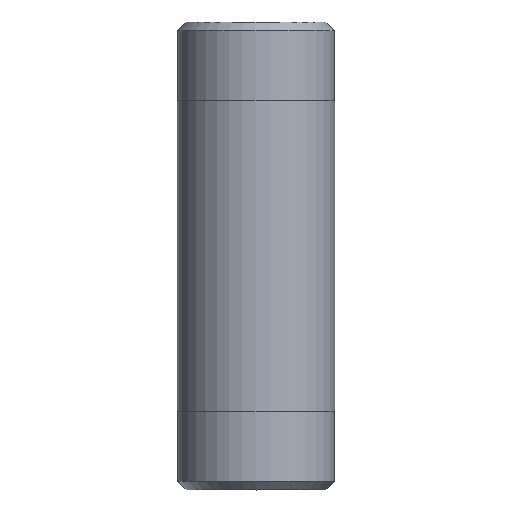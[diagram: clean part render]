
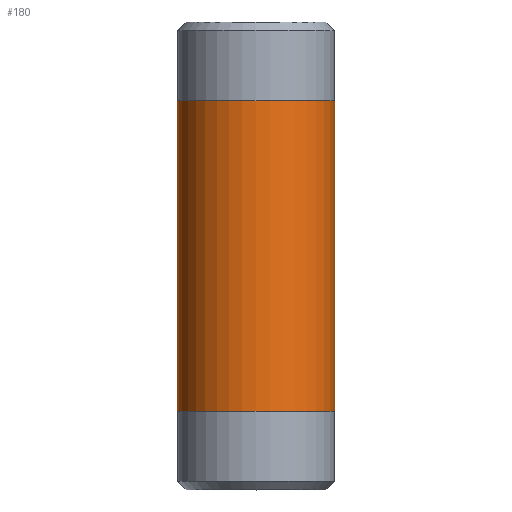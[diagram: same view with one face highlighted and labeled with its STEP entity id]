
A CAD part, top view. The second image highlights one B-rep face of the part: STEP entity #180.
In plain terms, the highlighted cylindrical face has radius 10.668 mm (diameter 21.336 mm), a full revolution.
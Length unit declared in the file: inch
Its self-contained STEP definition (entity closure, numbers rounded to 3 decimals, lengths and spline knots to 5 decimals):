
#25=CYLINDRICAL_SURFACE('',#220,0.42);
#34=FACE_OUTER_BOUND('',#47,.T.);
#47=EDGE_LOOP('',(#155,#156,#157,#158,#159,#160));
#55=LINE('',#338,#61);
#61=VECTOR('',#283,0.42);
#77=CIRCLE('',#218,0.42);
#78=CIRCLE('',#219,0.42);
#79=CIRCLE('',#221,0.42);
#80=CIRCLE('',#222,0.42);
#95=VERTEX_POINT('',#329);
#96=VERTEX_POINT('',#330);
#97=VERTEX_POINT('',#334);
#98=VERTEX_POINT('',#335);
#117=EDGE_CURVE('',#95,#96,#77,.T.);
#118=EDGE_CURVE('',#96,#95,#78,.T.);
#119=EDGE_CURVE('',#97,#98,#79,.T.);
#120=EDGE_CURVE('',#98,#97,#80,.T.);
#121=EDGE_CURVE('',#98,#96,#55,.T.);
#155=ORIENTED_EDGE('',*,*,#119,.F.);
#156=ORIENTED_EDGE('',*,*,#120,.F.);
#157=ORIENTED_EDGE('',*,*,#121,.T.);
#158=ORIENTED_EDGE('',*,*,#118,.T.);
#159=ORIENTED_EDGE('',*,*,#117,.T.);
#160=ORIENTED_EDGE('',*,*,#121,.F.);
#180=ADVANCED_FACE('',(#34),#25,.T.);
#218=AXIS2_PLACEMENT_3D('',#331,#273,#274);
#219=AXIS2_PLACEMENT_3D('',#332,#275,#276);
#220=AXIS2_PLACEMENT_3D('',#333,#277,#278);
#221=AXIS2_PLACEMENT_3D('',#336,#279,#280);
#222=AXIS2_PLACEMENT_3D('',#337,#281,#282);
#273=DIRECTION('center_axis',(0.,-1.,0.));
#274=DIRECTION('ref_axis',(1.,0.,0.));
#275=DIRECTION('center_axis',(0.,-1.,0.));
#276=DIRECTION('ref_axis',(1.,0.,0.));
#277=DIRECTION('center_axis',(0.,-1.,0.));
#278=DIRECTION('ref_axis',(0.,0.,-1.));
#279=DIRECTION('center_axis',(0.,-1.,0.));
#280=DIRECTION('ref_axis',(1.,0.,0.));
#281=DIRECTION('center_axis',(0.,-1.,0.));
#282=DIRECTION('ref_axis',(1.,0.,0.));
#283=DIRECTION('',(0.,1.,0.));
#329=CARTESIAN_POINT('',(0.,2.08,-0.42));
#330=CARTESIAN_POINT('',(0.,2.08,0.42));
#331=CARTESIAN_POINT('Origin',(0.,2.08,0.));
#332=CARTESIAN_POINT('Origin',(0.,2.08,0.));
#333=CARTESIAN_POINT('Origin',(0.,1.25,0.));
#334=CARTESIAN_POINT('',(0.,0.42,-0.42));
#335=CARTESIAN_POINT('',(0.,0.42,0.42));
#336=CARTESIAN_POINT('Origin',(0.,0.42,0.));
#337=CARTESIAN_POINT('Origin',(0.,0.42,0.));
#338=CARTESIAN_POINT('',(0.,1.25,0.42));
